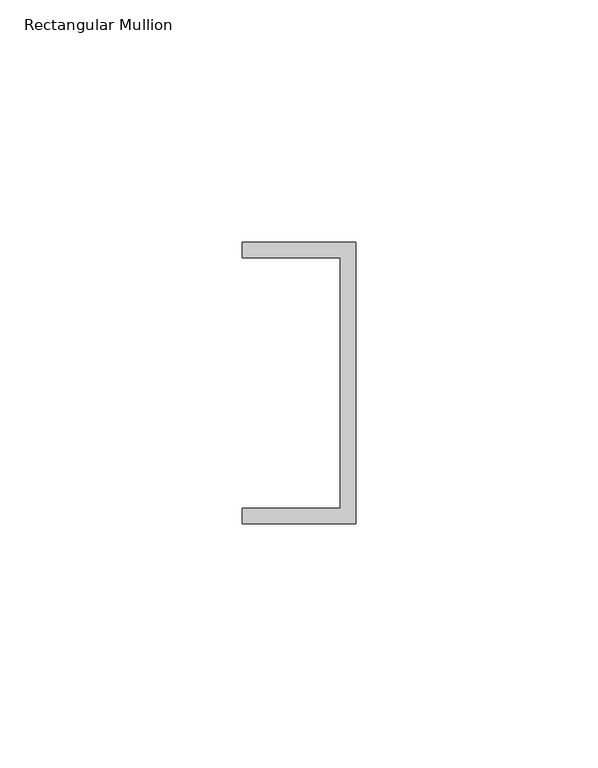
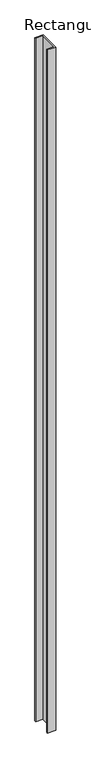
"""IFC4 building model written with IfcOpenShell, lengths in millimetres: member geometry, Rectangular Mullion : Frame-Teknion-Altos-Base_Channel."""

import ifcopenshell
import ifcopenshell.guid

model = None  # the IFC model being written
_history = None  # IfcOwnerHistory: only IFC2X3 demands one
_inside = {}  # id of a spatial element -> (the spatial element, [elements in it])
_under = {}  # id of a project, library or spatial element -> (it, [spatial elements below it])
_declared = {}  # id of a project -> (the project, [libraries it declares])
_typed = {}  # id of a type object -> (the type object, [elements of that type])
_made_of = {}  # id of a material, layer set ... -> (it, [elements and type objects made of it])


def new_model(schema):
    """Start an empty IFC model of exactly this schema.

    Asked for "IFC4X3", IfcOpenShell would pick the latest addendum, in which some entities
    have other attributes; the version numbers below select the first issue.
    IFC2X3 requires an IfcOwnerHistory on every rooted entity: one is made here for all.
    """
    global model, _history
    if schema == "IFC4X3":
        model = ifcopenshell.file(schema_version=(4, 3, 0, 0))
    else:
        model = ifcopenshell.file(schema=schema)
    _inside.clear()
    _under.clear()
    _declared.clear()
    _typed.clear()
    _made_of.clear()
    _history = None
    if model.schema == "IFC2X3":
        org = make("IfcOrganization", Name="unknown")
        user = make(
            "IfcPersonAndOrganization",
            ThePerson=make("IfcPerson", FamilyName="unknown"),
            TheOrganization=org,
        )
        app = make(
            "IfcApplication",
            ApplicationDeveloper=org,
            Version="unknown",
            ApplicationFullName="unknown",
            ApplicationIdentifier="unknown",
        )
        _history = make(
            "IfcOwnerHistory",
            OwningUser=user,
            OwningApplication=app,
            ChangeAction="ADDED",
            CreationDate=0,
        )
    return model


def make(cls, **values):
    """One entity of the class cls with the attributes given. An attribute that is None is left unset."""
    return model.create_entity(
        cls, **{name: value for name, value in values.items() if value is not None}
    )


def rooted(cls, **values):
    """An entity with a GlobalId (a new one), such as an element, a storey or a relation."""
    return make(cls, GlobalId=ifcopenshell.guid.new(), OwnerHistory=_history, **values)


def si_unit(unit_type, name, prefix=None):
    """IfcSIUnit, for example si_unit("LENGTHUNIT", "METRE", prefix="MILLI")."""
    return make("IfcSIUnit", UnitType=unit_type, Prefix=prefix, Name=name)


def assignment(units):
    """IfcUnitAssignment: the units of a project."""
    return None if units is None else make("IfcUnitAssignment", Units=units)


def point(xyz):
    """IfcCartesianPoint."""
    return None if xyz is None else make("IfcCartesianPoint", Coordinates=xyz)


def direction(xyz):
    """IfcDirection."""
    return None if xyz is None else make("IfcDirection", DirectionRatios=xyz)


def frame(location, z_axis=None, x_axis=None):
    """IfcAxis2Placement3D, a coordinate frame: its origin and axes. An axis left out is left unset."""
    return make(
        "IfcAxis2Placement3D",
        Location=point(location),
        Axis=direction(z_axis),
        RefDirection=direction(x_axis),
    )


def origin():
    """The frame at (0, 0, 0) with its axes left unset."""
    return frame((0.0, 0.0, 0.0))


def place(relative_to, where):
    """IfcLocalPlacement: puts the frame where relative to a parent placement (None: the world)."""
    return make(
        "IfcLocalPlacement", PlacementRelTo=relative_to, RelativePlacement=where
    )


def context(
    kind, dimensions, precision=None, world=None, true_north=None, identifier=None
):
    """IfcGeometricRepresentationContext, for example the 3D "Model" context."""
    return make(
        "IfcGeometricRepresentationContext",
        ContextIdentifier=identifier,
        ContextType=kind,
        CoordinateSpaceDimension=dimensions,
        Precision=precision,
        WorldCoordinateSystem=world,
        TrueNorth=true_north,
    )


def project(units=None, contexts=None):
    """IfcProject with its units and contexts."""
    return rooted(
        "IfcProject",
        Name="project",
        RepresentationContexts=contexts,
        UnitsInContext=assignment(units),
    )


def spatial(cls, under=None, at=None, **own):
    """A site, building, storey or space (cls), placed at a placement, below another one or the project."""
    s = rooted(cls, ObjectPlacement=at, **own)
    if under is not None:
        _under.setdefault(under.id(), (under, []))[1].append(s)
    return s


def polyline(points):
    """IfcPolyline through the points."""
    return make("IfcPolyline", Points=[point(p) for p in points])


def outline(outer, holes=None, kind="AREA"):
    """IfcArbitraryClosedProfileDef: a profile drawn as a closed curve; with holes, ...WithVoids."""
    if holes is None:
        return make("IfcArbitraryClosedProfileDef", ProfileType=kind, OuterCurve=outer)
    return make(
        "IfcArbitraryProfileDefWithVoids",
        ProfileType=kind,
        OuterCurve=outer,
        InnerCurves=holes,
    )


def extrude(swept, where, along, depth):
    """IfcExtrudedAreaSolid: the profile swept, set in the frame where, extruded along a direction by depth."""
    return make(
        "IfcExtrudedAreaSolid",
        SweptArea=swept,
        Position=where,
        ExtrudedDirection=direction(along),
        Depth=depth,
    )


def shape(context_of_items, identifier, shape_type, items):
    """IfcShapeRepresentation: the items that make up one representation, for example the "Body"."""
    return make(
        "IfcShapeRepresentation",
        ContextOfItems=context_of_items,
        RepresentationIdentifier=identifier,
        RepresentationType=shape_type,
        Items=items,
    )


def source(mapping_origin, context_of_items, identifier, shape_type, items):
    """IfcRepresentationMap: a shape defined once, which mapped items show again and again."""
    return make(
        "IfcRepresentationMap",
        MappingOrigin=mapping_origin,
        MappedRepresentation=shape(context_of_items, identifier, shape_type, items),
    )


def transform(
    local_origin,
    x_axis=None,
    y_axis=None,
    z_axis=None,
    scale=None,
    scale2=None,
    scale3=None,
    uniform=True,
):
    """IfcCartesianTransformationOperator3D, or its non-uniform kind. x_axis, y_axis, z_axis: its Axis1, 2, 3."""
    if uniform:
        return make(
            "IfcCartesianTransformationOperator3D",
            Axis1=direction(x_axis),
            Axis2=direction(y_axis),
            LocalOrigin=point(local_origin),
            Scale=scale,
            Axis3=direction(z_axis),
        )
    return make(
        "IfcCartesianTransformationOperator3DnonUniform",
        Axis1=direction(x_axis),
        Axis2=direction(y_axis),
        LocalOrigin=point(local_origin),
        Scale=scale,
        Axis3=direction(z_axis),
        Scale2=scale2,
        Scale3=scale3,
    )


def mapped(mapping_source, mapping_target):
    """IfcMappedItem: shows the shape of a source again, moved by a transform."""
    return make(
        "IfcMappedItem", MappingSource=mapping_source, MappingTarget=mapping_target
    )


def made_of(thing, what):
    """Note that an element or type object is made of a material, layer set ...; save() writes the relation."""
    if what is not None:
        _made_of.setdefault(what.id(), (what, []))[1].append(thing)
    return thing


def element(
    cls,
    number,
    at=None,
    inside=None,
    cuts=None,
    type_object=None,
    material=None,
    context=None,
    identifier="Body",
    shape_type=None,
    held_by="IfcProductDefinitionShape",
    body=None,
    shapes=None,
    **own,
):
    """One element of the class cls, such as IfcWall. Its Tag is "e" and its number.

    at: its placement. inside: the storey or other place that contains it. cuts: it is an
    opening in that element (IfcRelVoidsElement). A single representation is given by context,
    identifier, shape_type and body (its items); several are given by shapes. held_by: the class
    of the entity that holds the representations. save() writes the other relations.
    """
    e = rooted(cls, Tag="e%d" % number, ObjectPlacement=at, **own)
    if body is not None:
        shapes = [shape(context, identifier, shape_type, body)]
    if shapes is not None:
        e.Representation = make(held_by, Representations=shapes)
    if inside is not None:
        _inside.setdefault(inside.id(), (inside, []))[1].append(e)
    if cuts is not None:
        rooted(
            "IfcRelVoidsElement", RelatingBuildingElement=cuts, RelatedOpeningElement=e
        )
    if type_object is not None:
        _typed.setdefault(type_object.id(), (type_object, []))[1].append(e)
    return made_of(e, material)


def aggregate(whole, parts):
    """IfcRelAggregates: a whole, such as a stair, and the parts it consists of."""
    return rooted("IfcRelAggregates", RelatingObject=whole, RelatedObjects=parts)


def save(model, path):
    """Write the relations noted so far, then the file.

    IfcRelAggregates (storeys below a building ...), IfcRelContainedInSpatialStructure (elements
    in a storey), IfcRelDefinesByType, IfcRelAssociatesMaterial and IfcRelDeclares: one each for
    every whole, place, type object, material and project.
    """
    for whole, parts in _under.values():
        aggregate(whole, parts)
    for where, things in _inside.values():
        rooted(
            "IfcRelContainedInSpatialStructure",
            RelatedElements=things,
            RelatingStructure=where,
        )
    for kind, things in _typed.values():
        rooted("IfcRelDefinesByType", RelatedObjects=things, RelatingType=kind)
    for what, things in _made_of.values():
        rooted("IfcRelAssociatesMaterial", RelatedObjects=things, RelatingMaterial=what)
    for by, libraries in _declared.values():
        rooted("IfcRelDeclares", RelatingContext=by, RelatedDefinitions=libraries)
    model.write(path)


def rectangular_mullion_beb627a1(model_context):
    return source(origin(), model_context, "Body", "SweptSolid", [
        extrude(outline(polyline([(0.0, 29.0214844), (0.0, -29.0214844), (-23.3164063, -29.0214844), (-23.3164063, -25.8464844), (-3.175, -25.8464844), (-3.175, 25.8464844), (-23.3164063, 25.8464844), (-23.3164063, 29.0214844), (0.0, 29.0214844)])), frame((0.0, 0.0, -1964.6304687), z_axis=(0.0, 0.0, 1.0), x_axis=(1.0, 0.0, 0.0)), (0.0, 0.0, 1.0), 1964.6304687),
    ])


if __name__ == "__main__":
    model = new_model("IFC4")
    model_context = context("Model", 3, world=origin())
    ifc_project = project(units=[si_unit("LENGTHUNIT", "METRE", prefix="MILLI")], contexts=[model_context])
    site = spatial("IfcSite", under=ifc_project)
    building = spatial("IfcBuilding", under=site)
    placement = place(None, origin())
    rectangular_mullion_shape = rectangular_mullion_beb627a1(model_context)
    element("IfcMember", 1, ObjectType="Rectangular Mullion : Frame-Teknion-Altos-Base_Channel", at=placement, inside=building, context=model_context, shape_type="MappedRepresentation", body=[
        mapped(rectangular_mullion_shape, transform((0.0, 0.0, 0.0), x_axis=(1.0, 0.0, 0.0), y_axis=(0.0, 1.0, 0.0), z_axis=(0.0, 0.0, 1.0))),
    ])
    save(model, "model.ifc")
